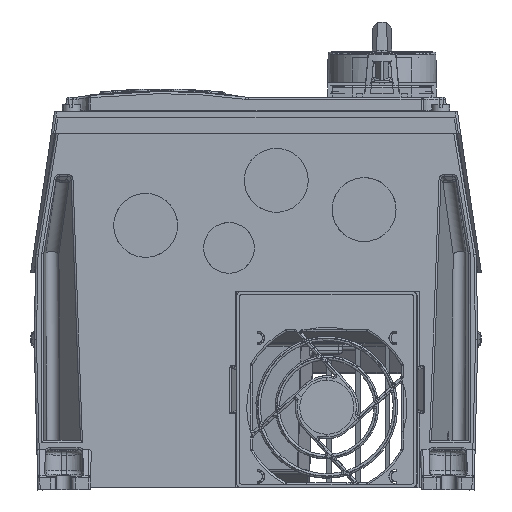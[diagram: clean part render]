
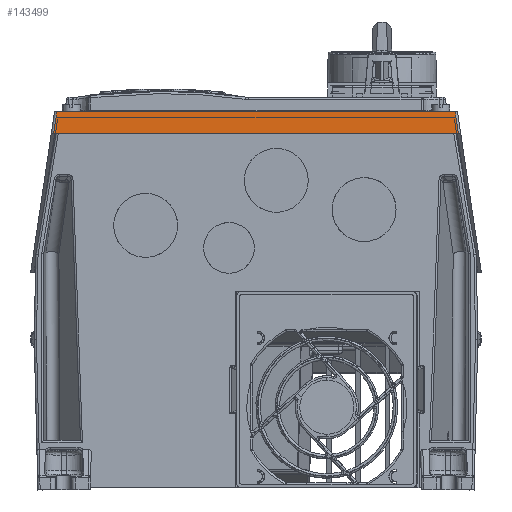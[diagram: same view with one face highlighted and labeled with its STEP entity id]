
A CAD part, front view. The second image highlights one B-rep face of the part: STEP entity #143499.
In plain terms, the highlighted planar face has unit normal (0, -1, 0.018).
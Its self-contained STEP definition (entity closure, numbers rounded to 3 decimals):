
#16802=CARTESIAN_POINT('',(88.458,-195.731,
71.605));
#16812=CARTESIAN_POINT('',(-89.895,-195.9,61.9));
#16818=DIRECTION('',(1.,0.,0.));
#16819=VECTOR('',#16818,179.791);
#16820=CARTESIAN_POINT('',(-89.895,-195.9,61.9));
#16821=LINE('',#16820,#16819);
#16826=CARTESIAN_POINT('',(89.895,-195.9,61.9));
#44160=DIRECTION('',(-1.,0.,0.));
#44161=VECTOR('',#44160,176.915);
#44162=CARTESIAN_POINT('',(88.458,-195.731,
71.605));
#44163=LINE('',#44162,#44161);
#44164=DIRECTION('',(0.147,-0.017,-0.989));
#44165=VECTOR('',#44164,9.813);
#44166=CARTESIAN_POINT('',(88.458,-195.731,
71.605));
#44167=LINE('',#44166,#44165);
#44168=DIRECTION('',(0.147,0.017,0.989));
#44169=VECTOR('',#44168,9.813);
#44170=CARTESIAN_POINT('',(-89.895,-195.9,61.9));
#44171=LINE('',#44170,#44169);
#56586=VERTEX_POINT('',#16826);
#56587=VERTEX_POINT('',#16812);
#56663=VERTEX_POINT('',#16802);
#56666=CARTESIAN_POINT('',(-88.458,-195.731,
71.605));
#56667=VERTEX_POINT('',#56666);
#143488=CARTESIAN_POINT('',(-93.442,-195.726,71.9));
#143489=DIRECTION('',(0.,-1.,0.017));
#143490=DIRECTION('',(0.,-0.017,-1.));
#143491=AXIS2_PLACEMENT_3D('',#143488,#143489,#143490);
#143492=PLANE('',#143491);
#143493=ORIENTED_EDGE('',*,*,#143480,.F.);
#143494=ORIENTED_EDGE('',*,*,#94404,.T.);
#143495=ORIENTED_EDGE('',*,*,#94425,.F.);
#143496=ORIENTED_EDGE('',*,*,#143395,.T.);
#143497=EDGE_LOOP('',(#143493,#143494,#143495,#143496));
#143498=FACE_OUTER_BOUND('',#143497,.F.);
#94404=EDGE_CURVE('',#56663,#56586,#44167,.T.);
#94425=EDGE_CURVE('',#56587,#56586,#16821,.T.);
#143395=EDGE_CURVE('',#56587,#56667,#44171,.T.);
#143480=EDGE_CURVE('',#56663,#56667,#44163,.T.);
#143499=ADVANCED_FACE('',(#143498),#143492,.T.);
